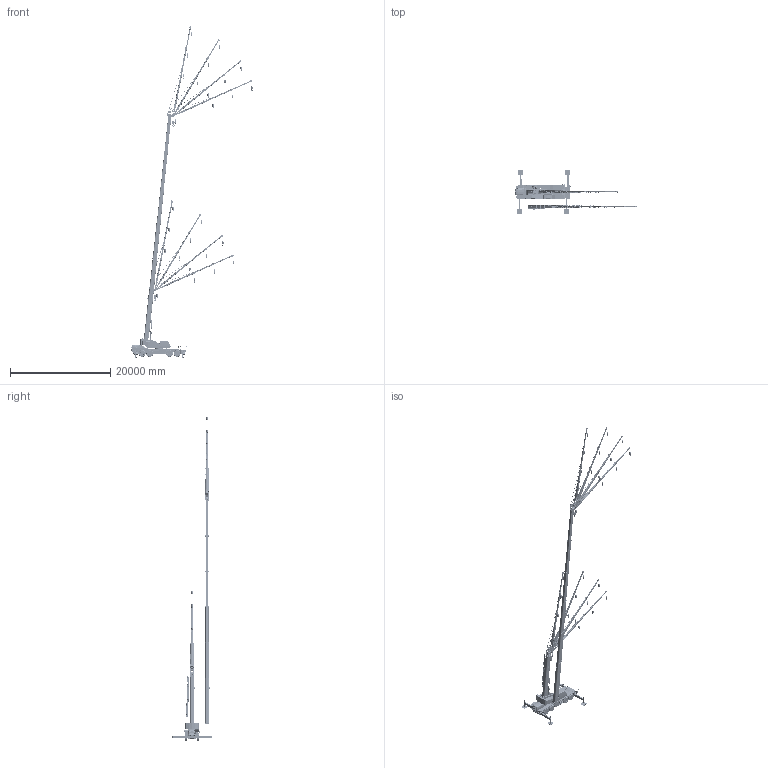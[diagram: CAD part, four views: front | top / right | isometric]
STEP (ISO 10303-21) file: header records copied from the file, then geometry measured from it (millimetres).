
FILE_DESCRIPTION(('CATIA V5 STEP Exchange','CAx-IF Rec.Pracs.--- Model Styling and Organization---1.4--- 2014-01-23'),'2;1');
FILE_NAME('\\Iba001\cad\CR\HP用CADデータ\13A\3D\STP\SL-850Rf2 3D.stp','2019-12-25T10:07:20+00:00',('none'),('none'),'CATIA Version 5-6 Release 2017 SP5 HF19','CATIA V5 STEP AP214','none');
FILE_SCHEMA(('AUTOMOTIVE_DESIGN { 1 0 10303 214 1 1 1 1 }'));
Products named in the file (51): SL-850Rf2 3D; SL-850Rf2 UPPER; SL-850Rf2 UPPER STRUCTURE; SL-850Rf2 TABLE; SL-850Rf2 CAB; SL-850Rf2 MACHINE ROOM; SL-850Rf2 COUNTER WEIGHT; SL-850Rf2 DERRICK CYLINDER-1; SL-850Rf2 DERRICK CYLINDER-2; SL-850Rf2 BOOM JIB Min; SL-850Rf2 BOOM Min; SL-850Rf2 BOOM1; SL-850Rf2 BOOM2; SL-850Rf2 BOOM3; SL-850Rf2 BOOM4; SL-850Rf2 BOOM5; SL-850Rf2 BOOM6; SL-850Rf2 JIB; SL-850Rf2 JIB 9.52m 5deg; SL-850Rf2 JIB1; SL-850Rf2 JIB2; SL-850Rf2 JIB3; SL-850Rf2 JIB4; SL-850Rf2 JIB TENSION ROD; SL-850Rf2 JIB 9.52m 25deg; SL-850Rf2 JIB 9.52m 45deg; SL-850Rf2 JIB 9.52m 60deg; SL-850Rf2 JIB 13.8m 5deg; SL-850Rf2 JIB 13.8m 25deg; SL-850Rf2 JIB 13.8m 45deg; SL-850Rf2 JIB 13.8m 60deg; SL-850Rf2 JIB 18.0m 5deg; SL-850Rf2 JIB 18.0m 25deg; SL-850Rf2 JIB 18.0m 45deg; SL-850Rf2 JIB 18.0m 60deg; SL-850Rf2 JIB Stowed; SL-850Rf2 JIB TENSION ROD Stowed; SL-850Rf2 HOOK 5.6t; SL-850Rf2 HOOK 35t; SL-850Rf2 BOOM JIB Max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
Assembly tree (151 placements, depth 6):
  SL-850Rf2 3D
    SL-850Rf2 UPPER
      SL-850Rf2 UPPER STRUCTURE
        SL-850Rf2 TABLE
        SL-850Rf2 CAB
        SL-850Rf2 MACHINE ROOM
        SL-850Rf2 COUNTER WEIGHT
        SL-850Rf2 DERRICK CYLINDER-1
        SL-850Rf2 DERRICK CYLINDER-2
      SL-850Rf2 BOOM JIB Min
        SL-850Rf2 BOOM Min
          SL-850Rf2 BOOM1
          SL-850Rf2 BOOM2
          SL-850Rf2 BOOM3
          SL-850Rf2 BOOM4
          SL-850Rf2 BOOM5
          SL-850Rf2 BOOM6
        SL-850Rf2 JIB
          SL-850Rf2 JIB 9.52m 5deg
            SL-850Rf2 JIB1
            SL-850Rf2 JIB2
            SL-850Rf2 JIB3
            SL-850Rf2 JIB4
            SL-850Rf2 JIB TENSION ROD
          SL-850Rf2 JIB 9.52m 25deg
            SL-850Rf2 JIB1
            SL-850Rf2 JIB2
            SL-850Rf2 JIB3
            SL-850Rf2 JIB4
            SL-850Rf2 JIB TENSION ROD
          SL-850Rf2 JIB 9.52m 45deg
            SL-850Rf2 JIB1
            SL-850Rf2 JIB2
            SL-850Rf2 JIB3
            SL-850Rf2 JIB4
            SL-850Rf2 JIB TENSION ROD
          SL-850Rf2 JIB 9.52m 60deg
            SL-850Rf2 JIB1
            SL-850Rf2 JIB2
            SL-850Rf2 JIB3
            SL-850Rf2 JIB4
            SL-850Rf2 JIB TENSION ROD
          SL-850Rf2 JIB 13.8m 5deg
            SL-850Rf2 JIB1
            SL-850Rf2 JIB2
            SL-850Rf2 JIB3
            SL-850Rf2 JIB4
            SL-850Rf2 JIB TENSION ROD
          SL-850Rf2 JIB 13.8m 25deg
            SL-850Rf2 JIB1
            SL-850Rf2 JIB2
            SL-850Rf2 JIB3
            SL-850Rf2 JIB4
            SL-850Rf2 JIB TENSION ROD
          SL-850Rf2 JIB 13.8m 45deg
            SL-850Rf2 JIB1
            SL-850Rf2 JIB2
            SL-850Rf2 JIB3
            SL-850Rf2 JIB4
            SL-850Rf2 JIB TENSION ROD
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Bounding box: 24176.47 x 8600 x 66258.94 mm (x, y, z)
Volume: 120916918993.5 mm3; surface area: 1356635530.2 mm2
Topology: 473 solids, 481 shells, 28811 faces, 77797 edges, 50697 vertices
Faces by surface type: plane 18414, cylinder 6615, extrusion 1973, torus 1194, bspline 419, cone 170, sphere 24, revolution 2
Entity records: 183226 total; most frequent: CARTESIAN_POINT 74568, ORIENTED_EDGE 24952, DIRECTION 16823, EDGE_CURVE 12476, VERTEX_POINT 8118, VECTOR 8061, LINE 7602, AXIS2_PLACEMENT_3D 5534
